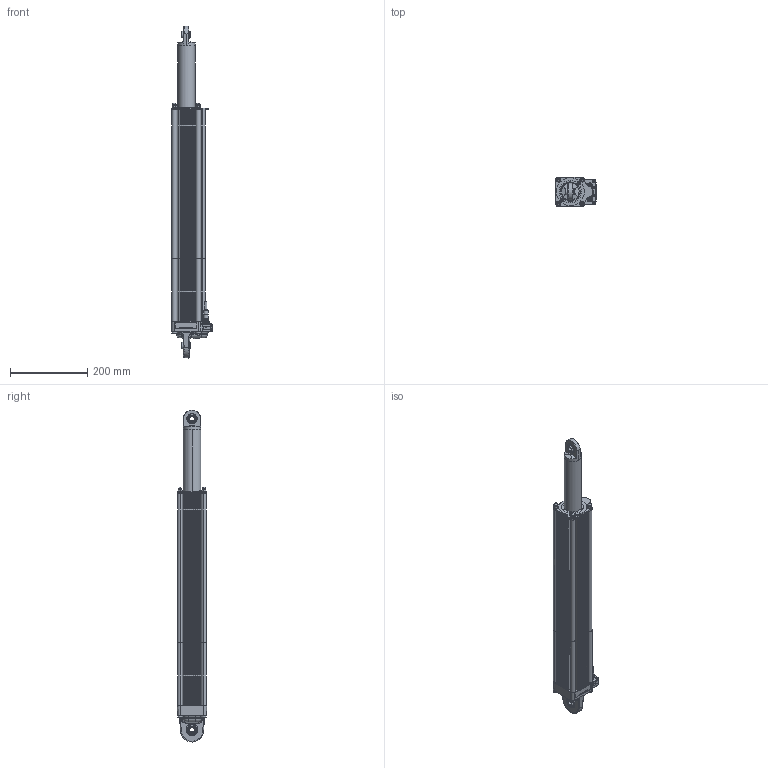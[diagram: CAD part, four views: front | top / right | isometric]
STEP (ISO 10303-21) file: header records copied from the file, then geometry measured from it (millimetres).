
FILE_DESCRIPTION (( 'STEP AP214' ), '1' );
FILE_NAME ('AG_9643.STEP', '2022-02-23T11:48:22', ( '' ), ( '' ), 'SwSTEP 2.0', 'SolidWorks 2019', '' );
FILE_SCHEMA (( 'AUTOMOTIVE_DESIGN' ));
Length unit declared in the file: millimetre
Products named in the file (1): AG_9643
Bounding box: 105.43 x 76.28 x 859.5 mm (x, y, z)
Volume: 3224692.3 mm3; surface area: 607407.1 mm2
Topology: 51 solids, 51 shells, 3209 faces, 8697 edges, 5741 vertices
Faces by surface type: plane 1326, cylinder 1252, bspline 291, cone 238, torus 60, sphere 42
Entity records: 159030 total; most frequent: CARTESIAN_POINT 43383, ORIENTED_EDGE 17266, DIRECTION 16146, EDGE_CURVE 8633, AXIS2_PLACEMENT_3D 5847, VERTEX_POINT 5721, VECTOR 4452, LINE 4452
